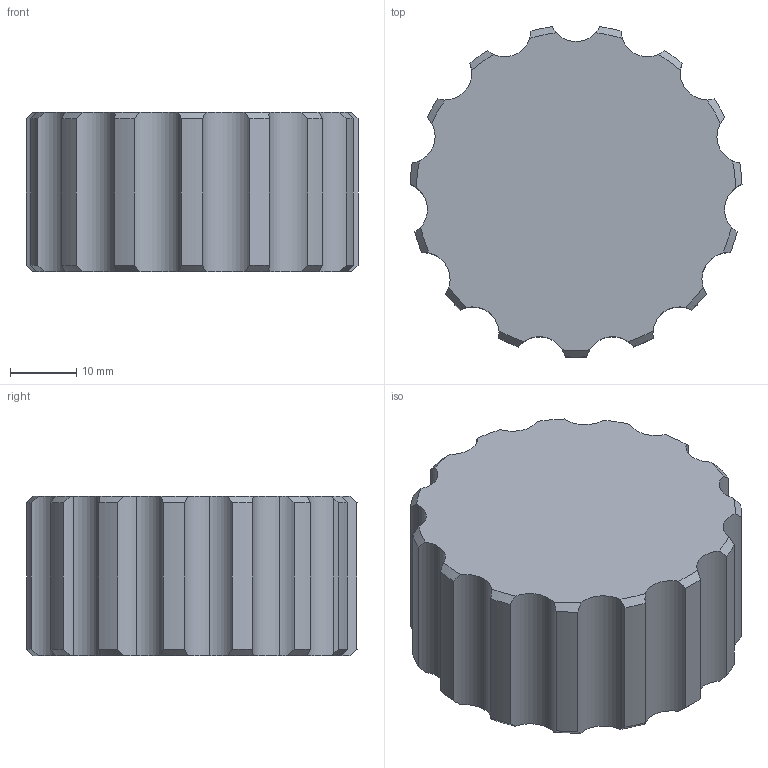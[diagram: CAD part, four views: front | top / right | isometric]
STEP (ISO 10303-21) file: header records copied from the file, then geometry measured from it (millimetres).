
FILE_DESCRIPTION (( 'STEP AP214' ), '1' );
FILE_NAME ('DS_v2_Matica.STEP', '2026-03-22T08:43:55', ( '' ), ( '' ), 'SwSTEP 2.0', 'SolidWorks 2026', '' );
FILE_SCHEMA (( 'AUTOMOTIVE_DESIGN' ));
Length unit declared in the file: millimetre
Products named in the file (1): DS_v2_Matica
Bounding box: 49.96 x 49.73 x 24 mm (x, y, z)
Volume: 17693.1 mm3; surface area: 11146.2 mm2
Topology: 1 solids, 1 shells, 89 faces, 260 edges, 174 vertices
Faces by surface type: cylinder 45, cone 33, bspline 7, plane 4
Entity records: 8422 total; most frequent: CARTESIAN_POINT 6197, ORIENTED_EDGE 520, DIRECTION 416, EDGE_CURVE 260, AXIS2_PLACEMENT_3D 184, VERTEX_POINT 174, CIRCLE 101, B_SPLINE_CURVE_WITH_KNOTS 96
